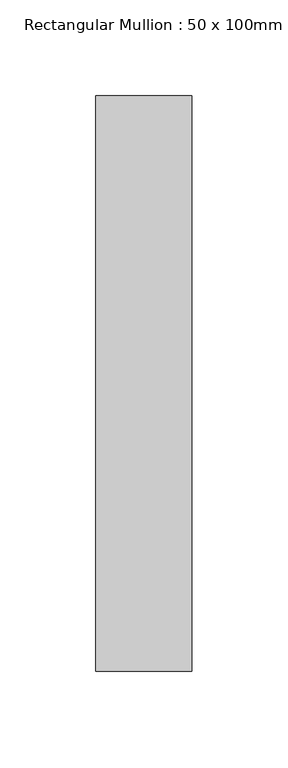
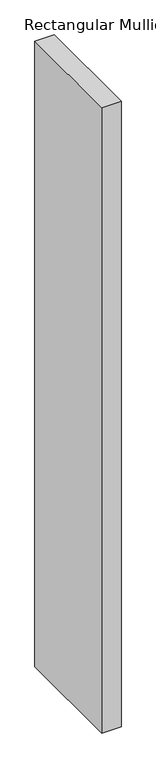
"""IFC4 building model written with IfcOpenShell, lengths in millimetres: member geometry, Rectangular Mullion : 50 x 100mm."""

from ifc_helpers import new_model, si_unit, frame, origin, place, context, project, spatial, polyline, outline, extrude, source, transform, mapped, element, save


def rectangular_mullion_50_x_100mm_69f66120(model_context):
    return source(origin(), model_context, "Body", "SweptSolid", [
        extrude(outline(polyline([(25.0, 175.0), (25.0, -125.0), (-25.0, -125.0), (-25.0, 175.0), (25.0, 175.0)])), frame((0.0, 0.0, -1714.0975405), z_axis=(0.0, 0.0, 1.0), x_axis=(1.0, 0.0, 0.0)), (0.0, 0.0, 1.0), 1714.0975405),
    ])


if __name__ == "__main__":
    model = new_model("IFC4")
    model_context = context("Model", 3, world=origin())
    ifc_project = project(units=[si_unit("LENGTHUNIT", "METRE", prefix="MILLI")], contexts=[model_context])
    site = spatial("IfcSite", under=ifc_project)
    building = spatial("IfcBuilding", under=site)
    placement = place(None, origin())
    rectangular_mullion_50_x_100mm_shape = rectangular_mullion_50_x_100mm_69f66120(model_context)
    element("IfcMember", 1, ObjectType="Rectangular Mullion : 50 x 100mm", at=placement, inside=building, context=model_context, shape_type="MappedRepresentation", body=[
        mapped(rectangular_mullion_50_x_100mm_shape, transform((0.0, 0.0, 0.0), x_axis=(1.0, 0.0, 0.0), y_axis=(0.0, 1.0, 0.0), z_axis=(0.0, 0.0, 1.0))),
    ])
    save(model, "model.ifc")
